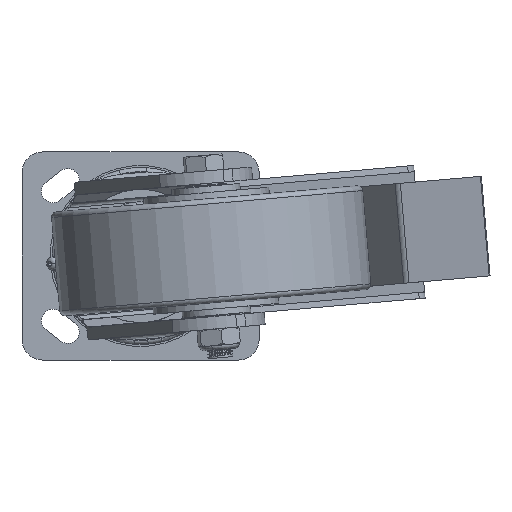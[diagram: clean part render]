
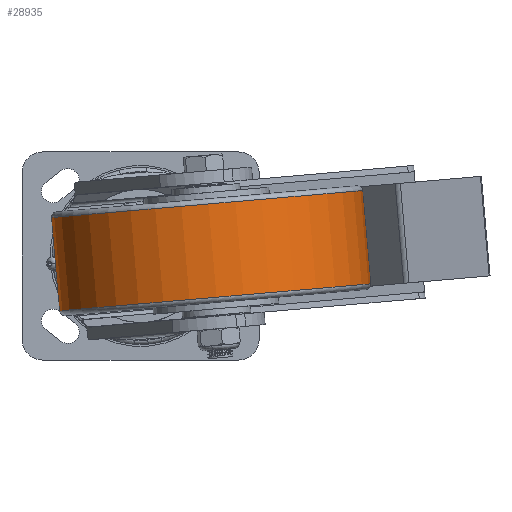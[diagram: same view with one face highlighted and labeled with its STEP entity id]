
A CAD part, front view. The second image highlights one B-rep face of the part: STEP entity #28935.
In plain terms, the highlighted cylindrical face has radius 75 mm (diameter 150 mm), a partial arc.
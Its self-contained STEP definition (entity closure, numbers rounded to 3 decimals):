
#831 = CARTESIAN_POINT ( 'NONE',  ( 0., -22.5, -75. ) ) ;
#1284 = DIRECTION ( 'NONE',  ( 0., 1., 0. ) ) ;
#1744 = CARTESIAN_POINT ( 'NONE',  ( 0., 0., 0. ) ) ;
#1877 = CIRCLE ( 'NONE', #7370, 75. ) ;
#2252 = DIRECTION ( 'NONE',  ( 0., 0., 1. ) ) ;
#4118 = CYLINDRICAL_SURFACE ( 'NONE', #6905, 75. ) ;
#4333 = ORIENTED_EDGE ( 'NONE', *, *, #18537, .F. ) ;
#5307 = LINE ( 'NONE', #18630, #15697 ) ;
#6905 = AXIS2_PLACEMENT_3D ( 'NONE', #1744, #15279, #14445 ) ;
#7239 = ORIENTED_EDGE ( 'NONE', *, *, #39943, .T. ) ;
#7370 = AXIS2_PLACEMENT_3D ( 'NONE', #24790, #15575, #2252 ) ;
#7689 = CARTESIAN_POINT ( 'NONE',  ( 0., -22.5, 0. ) ) ;
#8211 = VERTEX_POINT ( 'NONE', #23761 ) ;
#12168 = VERTEX_POINT ( 'NONE', #20742 ) ;
#13261 = VERTEX_POINT ( 'NONE', #18209 ) ;
#14445 = DIRECTION ( 'NONE',  ( 0., 0., -1. ) ) ;
#15279 = DIRECTION ( 'NONE',  ( 0., -1., 0. ) ) ;
#15575 = DIRECTION ( 'NONE',  ( 0., -1., 0. ) ) ;
#15697 = VECTOR ( 'NONE', #18419, 1000. ) ;
#17587 = DIRECTION ( 'NONE',  ( 0., 0., -1. ) ) ;
#17930 = EDGE_CURVE ( 'NONE', #13261, #8211, #1877, .T. ) ;
#18209 = CARTESIAN_POINT ( 'NONE',  ( 0., 22.5, 75. ) ) ;
#18419 = DIRECTION ( 'NONE',  ( 0., -1., 0. ) ) ;
#18537 = EDGE_CURVE ( 'NONE', #13261, #12168, #18878, .T. ) ;
#18630 = CARTESIAN_POINT ( 'NONE',  ( 0., 0., -75. ) ) ;
#18878 = LINE ( 'NONE', #35216, #36879 ) ;
#19758 = EDGE_CURVE ( 'NONE', #8211, #35801, #5307, .T. ) ;
#20742 = CARTESIAN_POINT ( 'NONE',  ( 0., -22.5, 75. ) ) ;
#23761 = CARTESIAN_POINT ( 'NONE',  ( 0., 22.5, -75. ) ) ;
#24790 = CARTESIAN_POINT ( 'NONE',  ( 0., 22.5, 0. ) ) ;
#26170 = DIRECTION ( 'NONE',  ( 0., -1., 0. ) ) ;
#28122 = ORIENTED_EDGE ( 'NONE', *, *, #17930, .T. ) ;
#28935 = ADVANCED_FACE ( 'NONE', ( #33341 ), #4118, .T. ) ;
#30707 = CIRCLE ( 'NONE', #38944, 75. ) ;
#33341 = FACE_OUTER_BOUND ( 'NONE', #33359, .T. ) ;
#33359 = EDGE_LOOP ( 'NONE', ( #4333, #28122, #35217, #7239 ) ) ;
#35216 = CARTESIAN_POINT ( 'NONE',  ( 0., 0., 75. ) ) ;
#35217 = ORIENTED_EDGE ( 'NONE', *, *, #19758, .T. ) ;
#35801 = VERTEX_POINT ( 'NONE', #831 ) ;
#36879 = VECTOR ( 'NONE', #26170, 1000. ) ;
#38944 = AXIS2_PLACEMENT_3D ( 'NONE', #7689, #1284, #17587 ) ;
#39943 = EDGE_CURVE ( 'NONE', #35801, #12168, #30707, .T. ) ;
